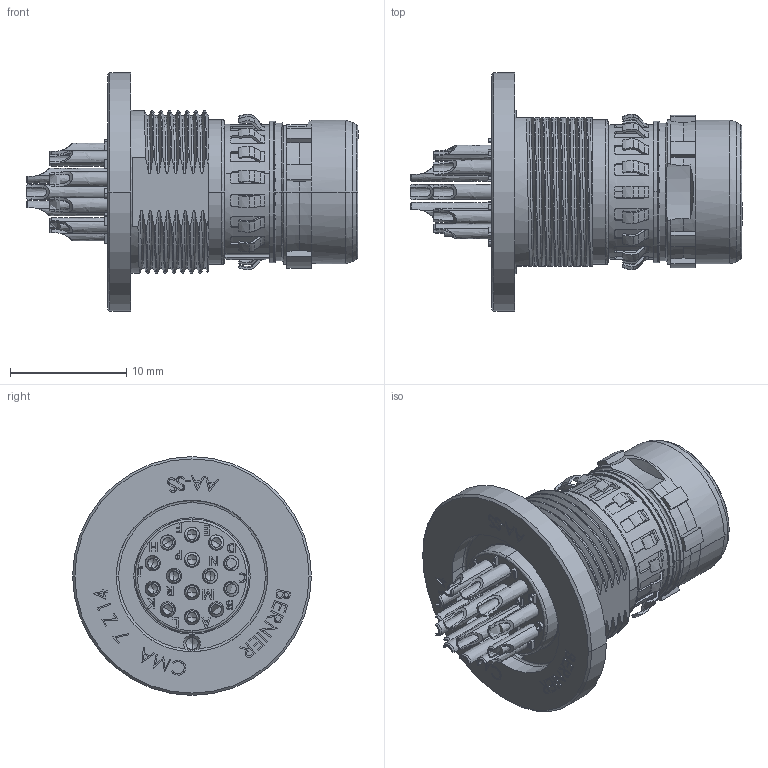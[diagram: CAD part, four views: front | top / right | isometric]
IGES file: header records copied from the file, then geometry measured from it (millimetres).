
Start section: SolidWorks IGES file using analytic representation for surfaces
Global section: file name: C:\Users\JGC\Desktop\CMA7Z141.IGS; native system: SolidWorks 2017; preprocessor: SolidWorks 2017; author: jgc; date: 190311.150603; units: millimetre
Bounding box: 28.5 x 20.5 x 20.5 mm (x, y, z)
Volume: 2747.4 mm3; surface area: 2756.9 mm2
Topology: 1 solids, 1 shells, 1578 faces, 4131 edges, 2654 vertices
Faces by surface type: plane 713, revolution 650, bspline 215
